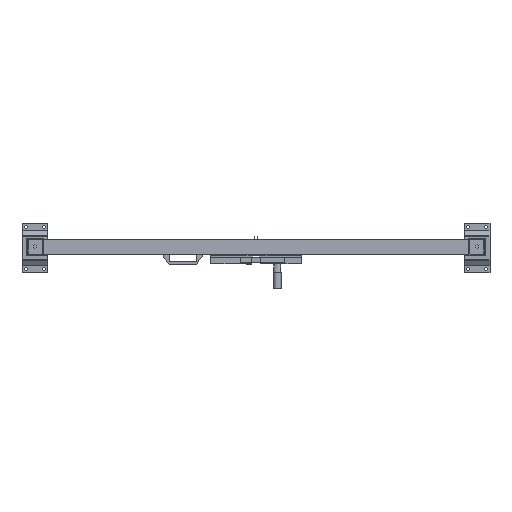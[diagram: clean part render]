
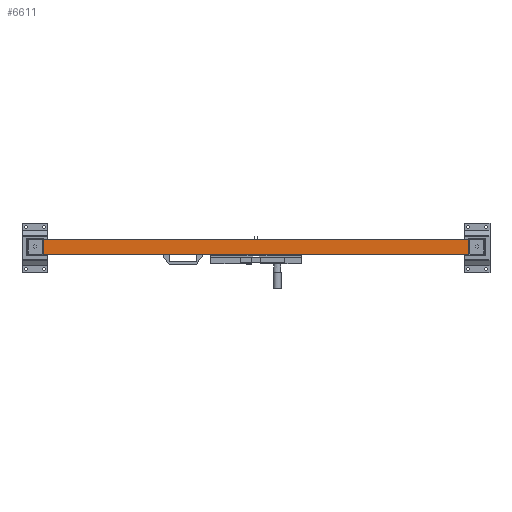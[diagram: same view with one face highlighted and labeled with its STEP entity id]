
A CAD part, top view. The second image highlights one B-rep face of the part: STEP entity #6611.
In plain terms, the highlighted planar face has unit normal (0, 0, 1).
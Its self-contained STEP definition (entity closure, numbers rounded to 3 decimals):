
#730=FACE_OUTER_BOUND('',#1057,.T.);
#1057=EDGE_LOOP('',(#4719,#4720,#4721,#4722));
#1478=LINE('',#9304,#2303);
#1479=LINE('',#9307,#2304);
#1480=LINE('',#9309,#2305);
#1481=LINE('',#9310,#2306);
#2303=VECTOR('',#7518,1.);
#2304=VECTOR('',#7521,1.);
#2305=VECTOR('',#7522,1.);
#2306=VECTOR('',#7523,1.);
#3105=VERTEX_POINT('',#9297);
#3108=VERTEX_POINT('',#9302);
#3109=VERTEX_POINT('',#9306);
#3110=VERTEX_POINT('',#9308);
#3763=EDGE_CURVE('',#3105,#3108,#1478,.T.);
#3764=EDGE_CURVE('',#3109,#3105,#1479,.T.);
#3765=EDGE_CURVE('',#3110,#3108,#1480,.T.);
#3766=EDGE_CURVE('',#3109,#3110,#1481,.T.);
#4719=ORIENTED_EDGE('',*,*,#3764,.T.);
#4720=ORIENTED_EDGE('',*,*,#3763,.T.);
#4721=ORIENTED_EDGE('',*,*,#3765,.F.);
#4722=ORIENTED_EDGE('',*,*,#3766,.F.);
#6326=PLANE('',#6961);
#6611=ADVANCED_FACE('',(#730),#6326,.T.);
#6961=AXIS2_PLACEMENT_3D('',#9305,#7519,#7520);
#7518=DIRECTION('',(1.,0.,0.));
#7519=DIRECTION('center_axis',(0.,0.,1.));
#7520=DIRECTION('ref_axis',(0.,-1.,0.));
#7521=DIRECTION('',(0.,-1.,0.));
#7522=DIRECTION('',(0.,-1.,0.));
#7523=DIRECTION('',(1.,0.,0.));
#9297=CARTESIAN_POINT('',(1904.435,1615.869,2599.));
#9302=CARTESIAN_POINT('',(3544.435,1615.869,2599.));
#9304=CARTESIAN_POINT('',(1904.435,1615.869,2599.));
#9305=CARTESIAN_POINT('Origin',(1904.435,1675.869,2599.));
#9306=CARTESIAN_POINT('',(1904.435,1675.869,2599.));
#9307=CARTESIAN_POINT('',(1904.435,1675.869,2599.));
#9308=CARTESIAN_POINT('',(3544.435,1675.869,2599.));
#9309=CARTESIAN_POINT('',(3544.435,1675.869,2599.));
#9310=CARTESIAN_POINT('',(1904.435,1675.869,2599.));
